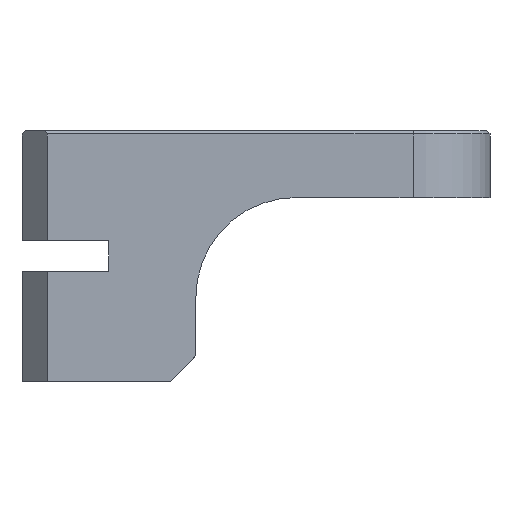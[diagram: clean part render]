
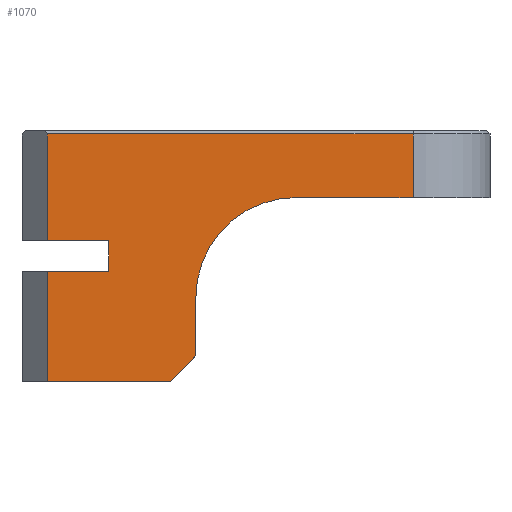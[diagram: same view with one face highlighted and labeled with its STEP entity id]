
A CAD part, left-side view. The second image highlights one B-rep face of the part: STEP entity #1070.
In plain terms, the highlighted planar face has unit normal (-1, 0, 0).
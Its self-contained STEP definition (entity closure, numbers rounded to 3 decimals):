
#75=CIRCLE('',#1168,15.);
#118=FACE_OUTER_BOUND('',#182,.T.);
#182=EDGE_LOOP('',(#848,#849,#850,#851,#852,#853,#854,#855,#856,#857,#858,
#859));
#222=LINE('',#1547,#334);
#234=LINE('',#1581,#346);
#236=LINE('',#1588,#348);
#237=LINE('',#1591,#349);
#244=LINE('',#1604,#356);
#278=LINE('',#1701,#390);
#287=LINE('',#1725,#399);
#288=LINE('',#1729,#400);
#289=LINE('',#1731,#401);
#290=LINE('',#1733,#402);
#291=LINE('',#1736,#403);
#334=VECTOR('',#1227,10.);
#346=VECTOR('',#1253,10.);
#348=VECTOR('',#1261,10.);
#349=VECTOR('',#1264,10.);
#356=VECTOR('',#1273,10.);
#390=VECTOR('',#1361,10.);
#399=VECTOR('',#1390,10.);
#400=VECTOR('',#1395,10.);
#401=VECTOR('',#1396,10.);
#402=VECTOR('',#1397,10.);
#403=VECTOR('',#1400,10.);
#445=VERTEX_POINT('',#1543);
#447=VERTEX_POINT('',#1546);
#456=VERTEX_POINT('',#1566);
#462=VERTEX_POINT('',#1579);
#465=VERTEX_POINT('',#1590);
#470=VERTEX_POINT('',#1602);
#506=VERTEX_POINT('',#1700);
#511=VERTEX_POINT('',#1724);
#512=VERTEX_POINT('',#1728);
#513=VERTEX_POINT('',#1730);
#514=VERTEX_POINT('',#1732);
#515=VERTEX_POINT('',#1734);
#546=EDGE_CURVE('',#447,#445,#222,.T.);
#564=EDGE_CURVE('',#456,#462,#234,.T.);
#568=EDGE_CURVE('',#462,#447,#236,.T.);
#569=EDGE_CURVE('',#456,#465,#237,.T.);
#576=EDGE_CURVE('',#470,#445,#244,.T.);
#624=EDGE_CURVE('',#465,#506,#278,.T.);
#636=EDGE_CURVE('',#506,#511,#287,.T.);
#638=EDGE_CURVE('',#470,#512,#288,.T.);
#639=EDGE_CURVE('',#513,#512,#289,.T.);
#640=EDGE_CURVE('',#513,#514,#290,.T.);
#641=EDGE_CURVE('',#515,#514,#75,.T.);
#642=EDGE_CURVE('',#515,#511,#291,.T.);
#848=ORIENTED_EDGE('',*,*,#546,.T.);
#849=ORIENTED_EDGE('',*,*,#576,.F.);
#850=ORIENTED_EDGE('',*,*,#638,.T.);
#851=ORIENTED_EDGE('',*,*,#639,.F.);
#852=ORIENTED_EDGE('',*,*,#640,.T.);
#853=ORIENTED_EDGE('',*,*,#641,.F.);
#854=ORIENTED_EDGE('',*,*,#642,.T.);
#855=ORIENTED_EDGE('',*,*,#636,.F.);
#856=ORIENTED_EDGE('',*,*,#624,.F.);
#857=ORIENTED_EDGE('',*,*,#569,.F.);
#858=ORIENTED_EDGE('',*,*,#564,.T.);
#859=ORIENTED_EDGE('',*,*,#568,.T.);
#1028=PLANE('',#1167);
#1070=ADVANCED_FACE('',(#118),#1028,.T.);
#1167=AXIS2_PLACEMENT_3D('',#1727,#1393,#1394);
#1168=AXIS2_PLACEMENT_3D('',#1735,#1398,#1399);
#1227=DIRECTION('',(0.,1.,0.));
#1253=DIRECTION('',(0.,-1.,0.));
#1261=DIRECTION('',(0.,0.,-1.));
#1264=DIRECTION('',(0.,0.,1.));
#1273=DIRECTION('',(0.,0.,1.));
#1361=DIRECTION('',(0.,-1.,0.));
#1390=DIRECTION('',(0.,0.,-1.));
#1393=DIRECTION('center_axis',(-1.,0.,0.));
#1394=DIRECTION('ref_axis',(0.,-1.,0.));
#1395=DIRECTION('',(0.,-1.,0.));
#1396=DIRECTION('',(0.,0.707,-0.707));
#1397=DIRECTION('',(0.,0.,1.));
#1398=DIRECTION('center_axis',(-1.,0.,0.));
#1399=DIRECTION('ref_axis',(0.,0.707,0.707));
#1400=DIRECTION('',(0.,-1.,0.));
#1543=CARTESIAN_POINT('',(0.,66.2,16.5));
#1546=CARTESIAN_POINT('',(0.,57.,16.5));
#1547=CARTESIAN_POINT('',(0.,70.,16.5));
#1566=CARTESIAN_POINT('',(0.,66.2,21.));
#1579=CARTESIAN_POINT('',(0.,57.,21.));
#1581=CARTESIAN_POINT('',(0.,70.,21.));
#1588=CARTESIAN_POINT('',(0.,57.,9.375));
#1590=CARTESIAN_POINT('',(0.,66.2,37.));
#1591=CARTESIAN_POINT('',(0.,66.2,0.));
#1602=CARTESIAN_POINT('',(0.,66.2,0.));
#1604=CARTESIAN_POINT('',(0.,66.2,0.));
#1700=CARTESIAN_POINT('',(0.,11.5,37.));
#1701=CARTESIAN_POINT('',(0.,52.5,37.));
#1724=CARTESIAN_POINT('',(0.,11.5,27.5));
#1725=CARTESIAN_POINT('',(0.,11.5,0.));
#1727=CARTESIAN_POINT('Origin',(0.,70.,0.));
#1728=CARTESIAN_POINT('',(0.,47.8,0.));
#1729=CARTESIAN_POINT('',(0.,70.,0.));
#1730=CARTESIAN_POINT('',(0.,44.,3.8));
#1731=CARTESIAN_POINT('',(0.,52.4,-4.6));
#1732=CARTESIAN_POINT('',(0.,44.,12.5));
#1733=CARTESIAN_POINT('',(0.,44.,0.));
#1734=CARTESIAN_POINT('',(0.,29.,27.5));
#1735=CARTESIAN_POINT('Origin',(0.,29.,12.5));
#1736=CARTESIAN_POINT('',(0.,46.,27.5));
